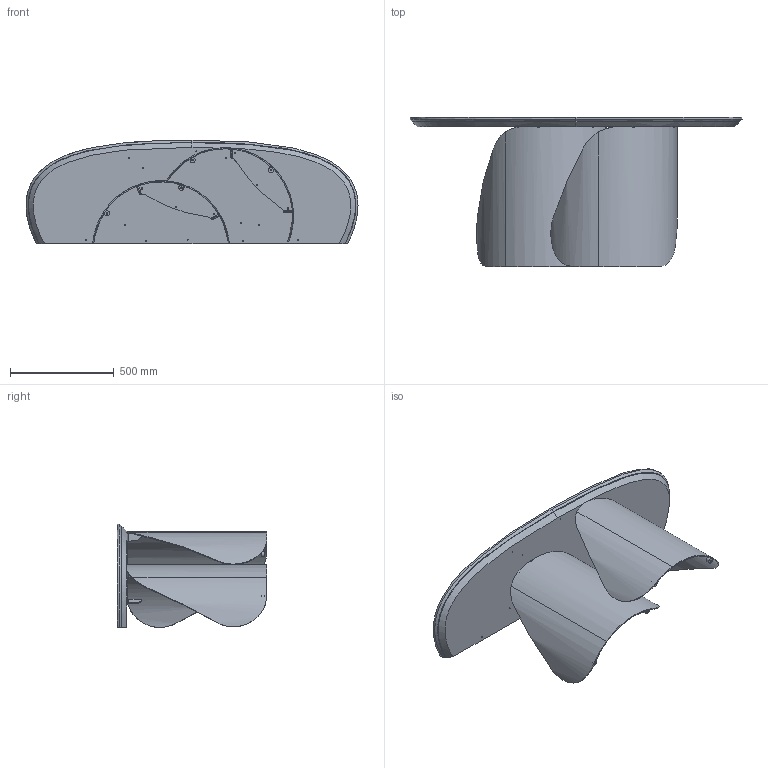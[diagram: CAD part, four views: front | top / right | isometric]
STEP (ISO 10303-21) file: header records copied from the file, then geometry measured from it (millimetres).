
FILE_DESCRIPTION (( 'STEP AP203' ), '1' );
FILE_NAME ('ON60M_Onda Console_160x50x72h_Marble Shaped.STEP', '2024-08-06T09:47:14', ( '' ), ( '' ), 'SwSTEP 2.0', 'SolidWorks 2022', '' );
FILE_SCHEMA (( 'CONFIG_CONTROL_DESIGN' ));
Length unit declared in the file: millimetre
Products named in the file (8): TRUXXXX-02-NOBILITATO Sasso per console_160x50; KXXXX-00-piani MARMO Sasso per console_160x50; OND000000_03-00-LAMIERA CURVATA PRINCIPALE_OND00000X-00-ONDA BASE GREZZA PROTOTIPO; ON60M_Onda Console_160x50x72h_Marble Shaped; OND000000_02-00-CILINDRO DI FISSAGGIO Ø25X17 M8; OND000000-03-ONDA BASE GREZZA; OND000000_01-00-PIASTRA SUPERIORE BASE ONDA; KXXXX-00-piani MARMO Sasso per console_160X50
Assembly tree (9 placements, depth 3):
  ON60M_Onda Console_160x50x72h_Marble Shaped
    KXXXX-00-piani MARMO Sasso per console_160X50
      TRUXXXX-02-NOBILITATO Sasso per console_160x50
      KXXXX-00-piani MARMO Sasso per console_160x50
    OND000000-03-ONDA BASE GREZZA  x2
      OND000000_03-00-LAMIERA CURVATA PRINCIPALE_OND00000X-00-ONDA BASE GREZZA PROTOTIPO
      OND000000_01-00-PIASTRA SUPERIORE BASE ONDA
      OND000000_02-00-CILINDRO DI FISSAGGIO Ø25X17 M8
Bounding box: 1600 x 720 x 500 mm (x, y, z)
Volume: 36479292.4 mm3; surface area: 5218959 mm2
Topology: 10 solids, 10 shells, 282 faces, 712 edges, 430 vertices
Faces by surface type: cylinder 128, plane 66, bspline 48, cone 40
Entity records: 10336 total; most frequent: CARTESIAN_POINT 5387, ORIENTED_EDGE 842, DIRECTION 821, EDGE_CURVE 421, AXIS2_PLACEMENT_3D 327, VERTEX_POINT 268, EDGE_LOOP 213, ADVANCED_FACE 183
